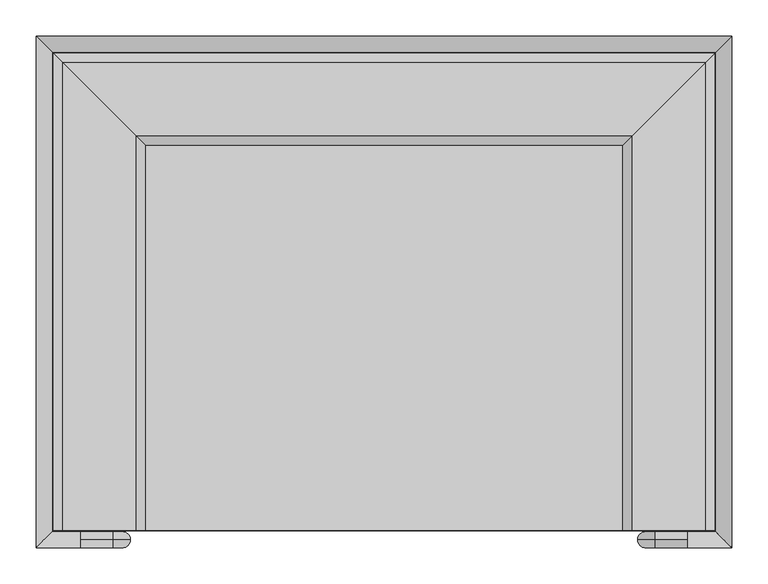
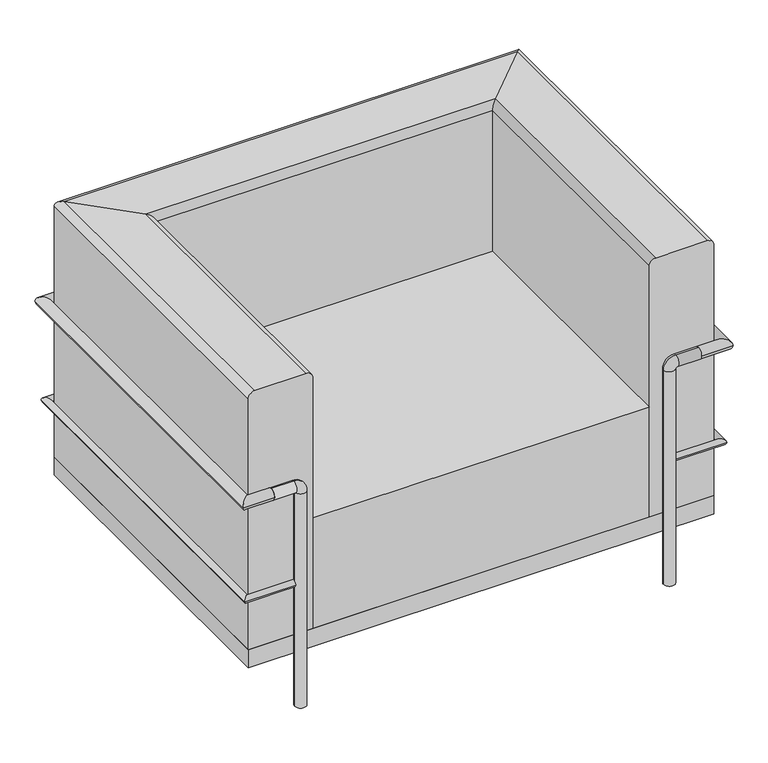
"""IFC4 building model written with IfcOpenShell, lengths in millimetres: furniture geometry, KresilkoCorbusier : KresilkoCorbusier."""

from ifc_helpers import new_model, si_unit, point, frame, frame_2d, origin, origin_with_axes, place, context, project, spatial, polyline, circle_curve, ellipse_curve, trimmed, segment, composite_curve, outline, extrude, source, transform, mapped, element, save
from ifc_brep_helpers import plane_surface, cylinder_surface, revolved_surface, advanced_brep


def furniture_2764bdef(model_context):
    return source(origin(), model_context, "Body", "SolidModel", [
        advanced_brep(
        [(116.1737705, 136.5770492, 139.7), (243.1737705, 136.5770492, 139.7), (243.1737705, 136.5770492, 660.4), (230.4737705, 136.5770492, 673.1), (128.8737705, 136.5770492, 673.1), (116.1737705, 136.5770492, 660.4), (116.1737705, 796.9770492, 139.7), (243.1737705, 669.9770492, 139.7), (243.1737705, 669.9770492, 660.4), (230.4737705, 682.6770492, 673.1), (128.8737705, 784.2770492, 673.1), (116.1737705, 796.9770492, 660.4), (1030.5737705, 796.9770492, 139.7), (903.5737705, 669.9770492, 139.7), (903.5737705, 669.9770492, 660.4), (916.2737705, 682.6770492, 673.1), (1017.8737705, 784.2770492, 673.1), (1030.5737705, 796.9770492, 660.4), (1030.5737705, 136.5770492, 139.7), (1030.5737705, 136.5770492, 660.4), (1017.8737705, 136.5770492, 673.1), (916.2737705, 136.5770492, 673.1), (903.5737705, 136.5770492, 660.4), (903.5737705, 136.5770492, 139.7)],
        [
            (0, 1),
            (1, 2),
            (2, 3, circle_curve(frame((230.4737705, 136.5770492, 660.4), z_axis=(0.0, -1.0, 0.0), x_axis=(-1.0, 0.0, 0.0)), 12.7)),
            (3, 4),
            (4, 5, circle_curve(frame((128.8737705, 136.5770492, 660.4), z_axis=(0.0, -1.0, 0.0), x_axis=(-1.0, 0.0, 0.0)), 12.7)),
            (5, 0),
            (0, 6),
            (6, 7),
            (7, 1),
            (7, 8),
            (8, 2),
            (8, 9, ellipse_curve(frame((230.4737705, 682.6770492, 660.4), z_axis=(-0.7071067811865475, -0.7071067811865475, 0.0), x_axis=(0.7071067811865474, -0.7071067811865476, 0.0)), 17.9605122, 12.7)),
            (9, 3),
            (9, 10),
            (10, 4),
            (10, 11, ellipse_curve(frame((128.8737705, 784.2770492, 660.4), z_axis=(-0.7071067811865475, -0.7071067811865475, 0.0), x_axis=(0.7071067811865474, -0.7071067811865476, 0.0)), 17.9605122, 12.7)),
            (11, 5),
            (11, 6),
            (6, 12),
            (12, 13),
            (13, 7),
            (13, 14),
            (14, 8),
            (14, 15, ellipse_curve(frame((916.2737705, 682.6770492, 660.4), z_axis=(-0.7071067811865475, 0.7071067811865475, 0.0), x_axis=(-0.7071067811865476, -0.7071067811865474, 0.0)), 17.9605122, 12.7)),
            (15, 9),
            (15, 16),
            (16, 10),
            (16, 17, ellipse_curve(frame((1017.8737705, 784.2770492, 660.4), z_axis=(-0.7071067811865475, 0.7071067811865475, 0.0), x_axis=(-0.7071067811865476, -0.7071067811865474, 0.0)), 17.9605122, 12.7)),
            (17, 11),
            (17, 12),
            (18, 19),
            (19, 20, circle_curve(frame((1017.8737705, 136.5770492, 660.4), z_axis=(0.0, -1.0, 0.0), x_axis=(1.0, 0.0, 0.0)), 12.7)),
            (20, 21),
            (21, 22, circle_curve(frame((916.2737705, 136.5770492, 660.4), z_axis=(0.0, -1.0, 0.0), x_axis=(1.0, 0.0, 0.0)), 12.7)),
            (22, 23),
            (23, 18),
            (12, 18),
            (23, 13),
            (22, 14),
            (21, 15),
            (20, 16),
            (19, 17),
        ],
        [
            plane_surface(frame((-566.5619763, 136.5770492, 0.0), z_axis=(0.0, -1.0, 0.0), x_axis=(0.0, 0.0, 1.0))),
            plane_surface(frame((116.1737705, 136.5770492, 139.7), z_axis=(0.0, 0.0, -1.0), x_axis=(0.0, 1.0, 0.0))),
            plane_surface(frame((243.1737705, 136.5770492, 139.7), z_axis=(1.0, 0.0, 0.0), x_axis=(0.0, 1.0, 0.0))),
            cylinder_surface(frame((230.4737705, 136.5770492, 660.4), z_axis=(0.0, -1.0, 0.0), x_axis=(-1.0, 0.0, 0.0)), 12.7),
            plane_surface(frame((230.4737705, 136.5770492, 673.1), z_axis=(0.0, 0.0, 1.0), x_axis=(0.0, 1.0, 0.0))),
            cylinder_surface(frame((128.8737705, 136.5770492, 660.4), z_axis=(0.0, -1.0, 0.0), x_axis=(-1.0, 0.0, 0.0)), 12.7),
            plane_surface(frame((116.1737705, 136.5770492, 660.4), z_axis=(-1.0, 0.0, 0.0), x_axis=(0.0, 1.0, 0.0))),
            plane_surface(frame((116.1737705, 796.9770492, 139.7), z_axis=(0.0, 0.0, -1.0), x_axis=(1.0, 0.0, 0.0))),
            plane_surface(frame((243.1737705, 669.9770492, 139.7), z_axis=(0.0, -1.0, 0.0), x_axis=(1.0, 0.0, 0.0))),
            cylinder_surface(frame((116.1737705, 682.6770492, 660.4), z_axis=(-1.0, 0.0, 0.0), x_axis=(0.0, 1.0, 0.0)), 12.7),
            plane_surface(frame((230.4737705, 682.6770492, 673.1), z_axis=(0.0, 0.0, 1.0), x_axis=(1.0, 0.0, 0.0))),
            cylinder_surface(frame((116.1737705, 784.2770492, 660.4), z_axis=(-1.0, 0.0, 0.0), x_axis=(0.0, 1.0, 0.0)), 12.7),
            plane_surface(frame((116.1737705, 796.9770492, 660.4), z_axis=(0.0, 1.0, 0.0), x_axis=(1.0, 0.0, 0.0))),
            plane_surface(frame((347.8380237, 136.5770492, 0.0), z_axis=(0.0, -1.0, 0.0), x_axis=(0.0, 0.0, -1.0))),
            plane_surface(frame((1030.5737705, 796.9770492, 139.7), z_axis=(0.0, 0.0, -1.0), x_axis=(0.0, -1.0, 0.0))),
            plane_surface(frame((903.5737705, 669.9770492, 139.7), z_axis=(-1.0, 0.0, 0.0), x_axis=(0.0, -1.0, 0.0))),
            cylinder_surface(frame((916.2737705, 796.9770492, 660.4), z_axis=(0.0, 1.0, 0.0), x_axis=(1.0, 0.0, 0.0)), 12.7),
            plane_surface(frame((916.2737705, 682.6770492, 673.1), z_axis=(0.0, 0.0, 1.0), x_axis=(0.0, -1.0, 0.0))),
            cylinder_surface(frame((1017.8737705, 796.9770492, 660.4), z_axis=(0.0, 1.0, 0.0), x_axis=(1.0, 0.0, 0.0)), 12.7),
            plane_surface(frame((1030.5737705, 796.9770492, 660.4), z_axis=(1.0, 0.0, 0.0), x_axis=(0.0, -1.0, 0.0))),
        ],
        [
            (0, [[1, 2, 3, 4, 5, 6]]),
            (1, [[-1, 7, 8, 9]]),
            (2, [[-2, -9, 10, 11]]),
            (3, [[-3, -11, 12, 13]]),
            (4, [[-4, -13, 14, 15]]),
            (5, [[-5, -15, 16, 17]]),
            (6, [[-6, -17, 18, -7]]),
            (7, [[-8, 19, 20, 21]]),
            (8, [[-10, -21, 22, 23]]),
            (9, [[-12, -23, 24, 25]]),
            (10, [[-14, -25, 26, 27]]),
            (11, [[-16, -27, 28, 29]]),
            (12, [[-18, -29, 30, -19]]),
            (13, [[31, 32, 33, 34, 35, 36]]),
            (14, [[-20, 37, -36, 38]]),
            (15, [[-22, -38, -35, 39]]),
            (16, [[-24, -39, -34, 40]]),
            (17, [[-26, -40, -33, 41]]),
            (18, [[-28, -41, -32, 42]]),
            (19, [[-30, -42, -31, -37]]),
        ],
    ),
        advanced_brep(
        [(946.4362705, 123.8770492, 0.0), (924.2112705, 123.8770492, 0.0), (946.4362705, 123.8770492, 444.5), (924.2112705, 123.8770492, 444.5), (948.0237705, 123.8770492, 468.3125), (948.0237705, 123.8770492, 446.0875), (992.4737705, 123.8770492, 446.0875), (992.4737705, 123.8770492, 468.3125)],
        [
            (0, 1, circle_curve(frame((935.3237705, 123.8770492, 0.0), z_axis=(0.0, 0.0, -1.0), x_axis=(-1.0, 0.0, 0.0)), 11.1125)),
            (1, 0, circle_curve(frame((935.3237705, 123.8770492, 0.0), z_axis=(0.0, 0.0, -1.0), x_axis=(-1.0, 0.0, 0.0)), 11.1125)),
            (0, 2),
            (2, 3, circle_curve(frame((935.3237705, 123.8770492, 444.5), z_axis=(0.0, 0.0, -1.0), x_axis=(-1.0, 0.0, 0.0)), 11.1125)),
            (3, 1),
            (3, 2, circle_curve(frame((935.3237705, 123.8770492, 444.5), z_axis=(0.0, 0.0, -1.0), x_axis=(-1.0, 0.0, 0.0)), 11.1125)),
            (4, 3, circle_curve(frame((948.0237705, 123.8770492, 444.5), z_axis=(0.0, -1.0, 0.0), x_axis=(-1.0, 0.0, 0.0)), 23.8125)),
            (2, 5, circle_curve(frame((948.0237705, 123.8770492, 444.5), z_axis=(0.0, 1.0, 0.0), x_axis=(-1.0, 0.0, 0.0)), 1.5875)),
            (5, 4, circle_curve(frame((948.0237705, 123.8770492, 457.2), z_axis=(-1.0, 0.0, 0.0), x_axis=(0.0, 0.0, 1.0)), 11.1125)),
            (4, 5, circle_curve(frame((948.0237705, 123.8770492, 457.2), z_axis=(-1.0, 0.0, 0.0), x_axis=(0.0, 0.0, 1.0)), 11.1125)),
            (6, 7, circle_curve(frame((992.4737705, 123.8770492, 457.2), z_axis=(1.0, 0.0, 0.0), x_axis=(0.0, 0.0, 1.0)), 11.1125)),
            (7, 6, circle_curve(frame((992.4737705, 123.8770492, 457.2), z_axis=(1.0, 0.0, 0.0), x_axis=(0.0, 0.0, 1.0)), 11.1125)),
            (5, 6),
            (7, 4),
        ],
        [
            plane_surface(frame((935.3237705, 112.7645492, 0.0), z_axis=(0.0, 0.0, -1.0), x_axis=(1.0, 0.0, 0.0))),
            cylinder_surface(frame((935.3237705, 123.8770492, 0.0), z_axis=(0.0, 0.0, -1.0), x_axis=(-1.0, 0.0, 0.0)), 11.1125),
            revolved_surface(trimmed(ellipse_curve(frame((935.3237705, 123.8770492, 444.5), z_axis=(0.0, 0.0, -1.0), x_axis=(-1.0, 0.0, 0.0)), 11.1125, 11.1125), [point((946.4362705, 123.8770492, 444.5))], [point((924.2112705, 123.8770492, 444.5))], True, "CARTESIAN"), (948.0237705, 123.8770492, 444.5), (0.0, 1.0, 0.0)),
            revolved_surface(trimmed(ellipse_curve(frame((935.3237705, 123.8770492, 444.5), z_axis=(0.0, 0.0, -1.0), x_axis=(-1.0, 0.0, 0.0)), 11.1125, 11.1125), [point((924.2112705, 123.8770492, 444.5))], [point((946.4362705, 123.8770492, 444.5))], True, "CARTESIAN"), (948.0237705, 123.8770492, 444.5), (0.0, 1.0, 0.0)),
            plane_surface(frame((992.4737705, 123.8770492, 446.0875), z_axis=(1.0, 0.0, 0.0), x_axis=(0.0, 1.0, 0.0))),
            cylinder_surface(frame((948.0237705, 123.8770492, 457.2), z_axis=(-1.0, 0.0, 0.0), x_axis=(0.0, 0.0, 1.0)), 11.1125),
        ],
        [
            (0, [[1, 2]]),
            (1, [[-1, 3, 4, 5]]),
            (1, [[-2, -5, 6, -3]]),
            (2, [[7, -4, 8, 9]]),
            (3, [[-8, -6, -7, 10]]),
            (4, [[11, 12]]),
            (5, [[-9, 13, -12, 14]]),
            (5, [[-10, -14, -11, -13]]),
        ],
    ),
        advanced_brep(
        [(222.5362705, 123.8770492, 0.0), (200.3112705, 123.8770492, 0.0), (222.5362705, 123.8770492, 444.5), (200.3112705, 123.8770492, 444.5), (198.7237705, 123.8770492, 446.0875), (198.7237705, 123.8770492, 468.3125), (154.2737705, 123.8770492, 468.3125), (154.2737705, 123.8770492, 446.0875)],
        [
            (0, 1, circle_curve(frame((211.4237705, 123.8770492, 0.0), z_axis=(0.0, 0.0, -1.0), x_axis=(-1.0, 0.0, 0.0)), 11.1125)),
            (1, 0, circle_curve(frame((211.4237705, 123.8770492, 0.0), z_axis=(0.0, 0.0, -1.0), x_axis=(-1.0, 0.0, 0.0)), 11.1125)),
            (0, 2),
            (2, 3, circle_curve(frame((211.4237705, 123.8770492, 444.5), z_axis=(0.0, 0.0, -1.0), x_axis=(-1.0, 0.0, 0.0)), 11.1125)),
            (3, 1),
            (3, 2, circle_curve(frame((211.4237705, 123.8770492, 444.5), z_axis=(0.0, 0.0, -1.0), x_axis=(-1.0, 0.0, 0.0)), 11.1125)),
            (4, 3, circle_curve(frame((198.7237705, 123.8770492, 444.5), z_axis=(0.0, 1.0, 0.0), x_axis=(1.0, 0.0, 0.0)), 1.5875)),
            (2, 5, circle_curve(frame((198.7237705, 123.8770492, 444.5), z_axis=(0.0, -1.0, 0.0), x_axis=(1.0, 0.0, 0.0)), 23.8125)),
            (5, 4, circle_curve(frame((198.7237705, 123.8770492, 457.2), z_axis=(1.0, 0.0, 0.0), x_axis=(0.0, 0.0, -1.0)), 11.1125)),
            (4, 5, circle_curve(frame((198.7237705, 123.8770492, 457.2), z_axis=(1.0, 0.0, 0.0), x_axis=(0.0, 0.0, -1.0)), 11.1125)),
            (6, 7, circle_curve(frame((154.2737705, 123.8770492, 457.2), z_axis=(-1.0, 0.0, 0.0), x_axis=(0.0, 0.0, -1.0)), 11.1125)),
            (7, 6, circle_curve(frame((154.2737705, 123.8770492, 457.2), z_axis=(-1.0, 0.0, 0.0), x_axis=(0.0, 0.0, -1.0)), 11.1125)),
            (5, 6),
            (7, 4),
        ],
        [
            plane_surface(frame((211.4237705, 112.7645492, 0.0), z_axis=(0.0, 0.0, -1.0), x_axis=(1.0, 0.0, 0.0))),
            cylinder_surface(frame((211.4237705, 123.8770492, 0.0), z_axis=(0.0, 0.0, -1.0), x_axis=(-1.0, 0.0, 0.0)), 11.1125),
            revolved_surface(trimmed(ellipse_curve(frame((211.4237705, 123.8770492, 444.5), z_axis=(0.0, 0.0, -1.0), x_axis=(-1.0, 0.0, 0.0)), 11.1125, 11.1125), [point((222.5362705, 123.8770492, 444.5))], [point((200.3112705, 123.8770492, 444.5))], True, "CARTESIAN"), (198.7237705, 123.8770492, 444.5), (0.0, -1.0, 0.0)),
            revolved_surface(trimmed(ellipse_curve(frame((211.4237705, 123.8770492, 444.5), z_axis=(0.0, 0.0, -1.0), x_axis=(-1.0, 0.0, 0.0)), 11.1125, 11.1125), [point((200.3112705, 123.8770492, 444.5))], [point((222.5362705, 123.8770492, 444.5))], True, "CARTESIAN"), (198.7237705, 123.8770492, 444.5), (0.0, -1.0, 0.0)),
            plane_surface(frame((154.2737705, 123.8770492, 446.0875), z_axis=(-1.0, 0.0, 0.0), x_axis=(0.0, -1.0, 0.0))),
            cylinder_surface(frame((198.7237705, 123.8770492, 457.2), z_axis=(1.0, 0.0, 0.0), x_axis=(0.0, 0.0, -1.0)), 11.1125),
        ],
        [
            (0, [[1, 2]]),
            (1, [[-1, 3, 4, 5]]),
            (1, [[-2, -5, 6, -3]]),
            (2, [[7, -4, 8, 9]]),
            (3, [[-8, -6, -7, 10]]),
            (4, [[11, 12]]),
            (5, [[-9, 13, -12, 14]]),
            (5, [[-10, -14, -11, -13]]),
        ],
    ),
        advanced_brep(
        [(201.8987705, 133.4020492, 254.0), (201.8987705, 120.7020492, 254.0), (112.9987705, 133.4020492, 254.0), (100.2987705, 120.7020492, 254.0), (112.9987705, 800.1520492, 254.0), (100.2987705, 812.8520492, 254.0), (1033.7487705, 800.1520492, 254.0), (1046.4487705, 812.8520492, 254.0), (1033.7487705, 133.4020492, 254.0), (1046.4487705, 120.7020492, 254.0), (944.8487705, 133.4020492, 254.0), (944.8487705, 120.7020492, 254.0)],
        [
            (0, 1, circle_curve(frame((201.8987705, 127.0520492, 254.0), z_axis=(1.0, 0.0, 0.0), x_axis=(0.0, -1.0, 0.0)), 6.35)),
            (1, 0, circle_curve(frame((201.8987705, 127.0520492, 254.0), z_axis=(1.0, 0.0, 0.0), x_axis=(0.0, -1.0, 0.0)), 6.35)),
            (0, 2),
            (2, 3, ellipse_curve(frame((106.6487705, 127.0520492, 254.0), z_axis=(0.7071067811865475, -0.7071067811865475, 0.0), x_axis=(0.7071067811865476, 0.7071067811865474, 0.0)), 8.9802561, 6.35)),
            (3, 1),
            (3, 2, ellipse_curve(frame((106.6487705, 127.0520492, 254.0), z_axis=(0.7071067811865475, -0.7071067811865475, 0.0), x_axis=(0.7071067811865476, 0.7071067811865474, 0.0)), 8.9802561, 6.35)),
            (2, 4),
            (4, 5, ellipse_curve(frame((106.6487705, 806.5020492, 254.0), z_axis=(-0.7071067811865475, -0.7071067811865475, 0.0), x_axis=(0.7071067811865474, -0.7071067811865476, 0.0)), 8.9802561, 6.35)),
            (5, 3),
            (5, 4, ellipse_curve(frame((106.6487705, 806.5020492, 254.0), z_axis=(-0.7071067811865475, -0.7071067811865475, 0.0), x_axis=(0.7071067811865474, -0.7071067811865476, 0.0)), 8.9802561, 6.35)),
            (4, 6),
            (6, 7, ellipse_curve(frame((1040.0987705, 806.5020492, 254.0), z_axis=(-0.7071067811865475, 0.7071067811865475, 0.0), x_axis=(-0.7071067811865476, -0.7071067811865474, 0.0)), 8.9802561, 6.35)),
            (7, 5),
            (7, 6, ellipse_curve(frame((1040.0987705, 806.5020492, 254.0), z_axis=(-0.7071067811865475, 0.7071067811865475, 0.0), x_axis=(-0.7071067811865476, -0.7071067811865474, 0.0)), 8.9802561, 6.35)),
            (6, 8),
            (8, 9, ellipse_curve(frame((1040.0987705, 127.0520492, 254.0), z_axis=(0.7071067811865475, 0.7071067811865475, 0.0), x_axis=(-0.7071067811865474, 0.7071067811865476, 0.0)), 8.9802561, 6.35)),
            (9, 7),
            (9, 8, ellipse_curve(frame((1040.0987705, 127.0520492, 254.0), z_axis=(0.7071067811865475, 0.7071067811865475, 0.0), x_axis=(-0.7071067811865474, 0.7071067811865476, 0.0)), 8.9802561, 6.35)),
            (10, 11, circle_curve(frame((944.8487705, 127.0520492, 254.0), z_axis=(-1.0, 0.0, 0.0), x_axis=(0.0, -1.0, 0.0)), 6.35)),
            (11, 10, circle_curve(frame((944.8487705, 127.0520492, 254.0), z_axis=(-1.0, 0.0, 0.0), x_axis=(0.0, -1.0, 0.0)), 6.35)),
            (8, 10),
            (11, 9),
        ],
        [
            plane_surface(frame((201.8987705, 127.0520492, -259.5186838), z_axis=(1.0, 0.0, 0.0), x_axis=(0.0, -1.0, 0.0))),
            cylinder_surface(frame((201.8987705, 127.0520492, 254.0), z_axis=(1.0, 0.0, 0.0), x_axis=(0.0, -1.0, 0.0)), 6.35),
            cylinder_surface(frame((106.6487705, 127.0520492, 254.0), z_axis=(0.0, -1.0, 0.0), x_axis=(-1.0, 0.0, 0.0)), 6.35),
            cylinder_surface(frame((106.6487705, 806.5020492, 254.0), z_axis=(-1.0, 0.0, 0.0), x_axis=(0.0, 1.0, 0.0)), 6.35),
            cylinder_surface(frame((1040.0987705, 806.5020492, 254.0), z_axis=(0.0, 1.0, 0.0), x_axis=(1.0, 0.0, 0.0)), 6.35),
            plane_surface(frame((944.8487705, 127.0520492, -259.5186838), z_axis=(-1.0, 0.0, 0.0), x_axis=(0.0, -1.0, 0.0))),
            cylinder_surface(frame((1040.0987705, 127.0520492, 254.0), z_axis=(1.0, 0.0, 0.0), x_axis=(0.0, -1.0, 0.0)), 6.35),
        ],
        [
            (0, [[1, 2]]),
            (1, [[-1, 3, 4, 5]]),
            (1, [[-2, -5, 6, -3]]),
            (2, [[-4, 7, 8, 9]]),
            (2, [[-6, -9, 10, -7]]),
            (3, [[-8, 11, 12, 13]]),
            (3, [[-10, -13, 14, -11]]),
            (4, [[-12, 15, 16, 17]]),
            (4, [[-14, -17, 18, -15]]),
            (5, [[19, 20]]),
            (6, [[-16, 21, -20, 22]]),
            (6, [[-18, -22, -19, -21]]),
        ],
    ),
        advanced_brep(
        [(154.2737705, 134.9895492, 457.2), (154.2737705, 112.7645492, 457.2), (114.5862705, 134.9895492, 457.2), (92.3612705, 112.7645492, 457.2), (114.5862705, 798.5645492, 457.2), (92.3612705, 820.7895492, 457.2), (1032.1612705, 798.5645492, 457.2), (1054.3862705, 820.7895492, 457.2), (1032.1612705, 134.9895492, 457.2), (1054.3862705, 112.7645492, 457.2), (992.4737705, 134.9895492, 457.2), (992.4737705, 112.7645492, 457.2)],
        [
            (0, 1, circle_curve(frame((154.2737705, 123.8770492, 457.2), z_axis=(1.0, 0.0, 0.0), x_axis=(0.0, -1.0, 0.0)), 11.1125)),
            (1, 0, circle_curve(frame((154.2737705, 123.8770492, 457.2), z_axis=(1.0, 0.0, 0.0), x_axis=(0.0, -1.0, 0.0)), 11.1125)),
            (0, 2),
            (2, 3, ellipse_curve(frame((103.4737705, 123.8770492, 457.2), z_axis=(0.7071067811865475, -0.7071067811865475, 0.0), x_axis=(0.7071067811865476, 0.7071067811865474, 0.0)), 15.7154482, 11.1125)),
            (3, 1),
            (3, 2, ellipse_curve(frame((103.4737705, 123.8770492, 457.2), z_axis=(0.7071067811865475, -0.7071067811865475, 0.0), x_axis=(0.7071067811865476, 0.7071067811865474, 0.0)), 15.7154482, 11.1125)),
            (2, 4),
            (4, 5, ellipse_curve(frame((103.4737705, 809.6770492, 457.2), z_axis=(-0.7071067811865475, -0.7071067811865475, 0.0), x_axis=(0.7071067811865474, -0.7071067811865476, 0.0)), 15.7154482, 11.1125)),
            (5, 3),
            (5, 4, ellipse_curve(frame((103.4737705, 809.6770492, 457.2), z_axis=(-0.7071067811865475, -0.7071067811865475, 0.0), x_axis=(0.7071067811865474, -0.7071067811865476, 0.0)), 15.7154482, 11.1125)),
            (4, 6),
            (6, 7, ellipse_curve(frame((1043.2737705, 809.6770492, 457.2), z_axis=(-0.7071067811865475, 0.7071067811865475, 0.0), x_axis=(-0.7071067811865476, -0.7071067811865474, 0.0)), 15.7154482, 11.1125)),
            (7, 5),
            (7, 6, ellipse_curve(frame((1043.2737705, 809.6770492, 457.2), z_axis=(-0.7071067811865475, 0.7071067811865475, 0.0), x_axis=(-0.7071067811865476, -0.7071067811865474, 0.0)), 15.7154482, 11.1125)),
            (6, 8),
            (8, 9, ellipse_curve(frame((1043.2737705, 123.8770492, 457.2), z_axis=(0.7071067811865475, 0.7071067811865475, 0.0), x_axis=(-0.7071067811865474, 0.7071067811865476, 0.0)), 15.7154482, 11.1125)),
            (9, 7),
            (9, 8, ellipse_curve(frame((1043.2737705, 123.8770492, 457.2), z_axis=(0.7071067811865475, 0.7071067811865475, 0.0), x_axis=(-0.7071067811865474, 0.7071067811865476, 0.0)), 15.7154482, 11.1125)),
            (10, 11, circle_curve(frame((992.4737705, 123.8770492, 457.2), z_axis=(-1.0, 0.0, 0.0), x_axis=(0.0, -1.0, 0.0)), 11.1125)),
            (11, 10, circle_curve(frame((992.4737705, 123.8770492, 457.2), z_axis=(-1.0, 0.0, 0.0), x_axis=(0.0, -1.0, 0.0)), 11.1125)),
            (8, 10),
            (11, 9),
        ],
        [
            plane_surface(frame((154.2737705, 123.8770492, -466.8567721), z_axis=(1.0, 0.0, 0.0), x_axis=(0.0, -1.0, 0.0))),
            cylinder_surface(frame((154.2737705, 123.8770492, 457.2), z_axis=(1.0, 0.0, 0.0), x_axis=(0.0, -1.0, 0.0)), 11.1125),
            cylinder_surface(frame((103.4737705, 123.8770492, 457.2), z_axis=(0.0, -1.0, 0.0), x_axis=(-1.0, 0.0, 0.0)), 11.1125),
            cylinder_surface(frame((103.4737705, 809.6770492, 457.2), z_axis=(-1.0, 0.0, 0.0), x_axis=(0.0, 1.0, 0.0)), 11.1125),
            cylinder_surface(frame((1043.2737705, 809.6770492, 457.2), z_axis=(0.0, 1.0, 0.0), x_axis=(1.0, 0.0, 0.0)), 11.1125),
            plane_surface(frame((992.4737705, 123.8770492, -466.8567721), z_axis=(-1.0, 0.0, 0.0), x_axis=(0.0, -1.0, 0.0))),
            cylinder_surface(frame((1043.2737705, 123.8770492, 457.2), z_axis=(1.0, 0.0, 0.0), x_axis=(0.0, -1.0, 0.0)), 11.1125),
        ],
        [
            (0, [[1, 2]]),
            (1, [[-1, 3, 4, 5]]),
            (1, [[-2, -5, 6, -3]]),
            (2, [[-4, 7, 8, 9]]),
            (2, [[-6, -9, 10, -7]]),
            (3, [[-8, 11, 12, 13]]),
            (3, [[-10, -13, 14, -11]]),
            (4, [[-12, 15, 16, 17]]),
            (4, [[-14, -17, 18, -15]]),
            (5, [[19, 20]]),
            (6, [[-16, 21, -20, 22]]),
            (6, [[-18, -22, -19, -21]]),
        ],
    ),
        extrude(outline(polyline([(903.5737705, 669.9770492), (903.5737705, 136.5770492), (243.1737705, 136.5770492), (243.1737705, 669.9770492), (903.5737705, 669.9770492)])), frame((0.0, 0.0, 139.7), z_axis=(0.0, 0.0, 1.0), x_axis=(1.0, 0.0, 0.0)), (0.0, 0.0, 1.0), 228.6),
        extrude(outline(polyline([(1030.5737705, 796.9770492), (1030.5737705, 136.5770492), (116.1737705, 136.5770492), (116.1737705, 796.9770492), (1030.5737705, 796.9770492)])), frame((0.0, 0.0, 101.6), z_axis=(0.0, 0.0, 1.0), x_axis=(1.0, 0.0, 0.0)), (0.0, 0.0, 1.0), 38.1),
        extrude(outline(composite_curve([segment(trimmed(circle_curve(frame_2d((211.4237705, 809.6770492)), 11.1125), [point((200.3112705, 809.6770492))], [point((222.5362705, 809.6770492))], False, "CARTESIAN"), True, "CONTINUOUS"), segment(trimmed(circle_curve(frame_2d((211.4237705, 809.6770492)), 11.1125), [point((222.5362705, 809.6770492))], [point((200.3112705, 809.6770492))], False, "CARTESIAN"), True, "CONTINUOUS")], self_intersect=False)), origin_with_axes(), (0.0, 0.0, 1.0), 457.2),
        extrude(outline(composite_curve([segment(trimmed(circle_curve(frame_2d((935.3237705, 809.6770492)), 11.1125), [point((946.4362705, 809.6770492))], [point((924.2112705, 809.6770492))], False, "CARTESIAN"), True, "CONTINUOUS"), segment(trimmed(circle_curve(frame_2d((935.3237705, 809.6770492)), 11.1125), [point((924.2112705, 809.6770492))], [point((946.4362705, 809.6770492))], False, "CARTESIAN"), True, "CONTINUOUS")], self_intersect=False)), origin_with_axes(), (0.0, 0.0, 1.0), 457.2),
    ])


if __name__ == "__main__":
    model = new_model("IFC4")
    model_context = context("Model", 3, world=origin())
    ifc_project = project(units=[si_unit("LENGTHUNIT", "METRE", prefix="MILLI")], contexts=[model_context])
    site = spatial("IfcSite", under=ifc_project)
    building = spatial("IfcBuilding", under=site)
    placement = place(None, origin())
    furniture_shape = furniture_2764bdef(model_context)
    element("IfcFurniture", 1, ObjectType="KresilkoCorbusier : KresilkoCorbusier", at=placement, inside=building, context=model_context, shape_type="MappedRepresentation", body=[
        mapped(furniture_shape, transform((0.0, 0.0, 0.0), x_axis=(1.0, 0.0, 0.0), y_axis=(0.0, 1.0, 0.0), z_axis=(0.0, 0.0, 1.0))),
    ])
    save(model, "model.ifc")
